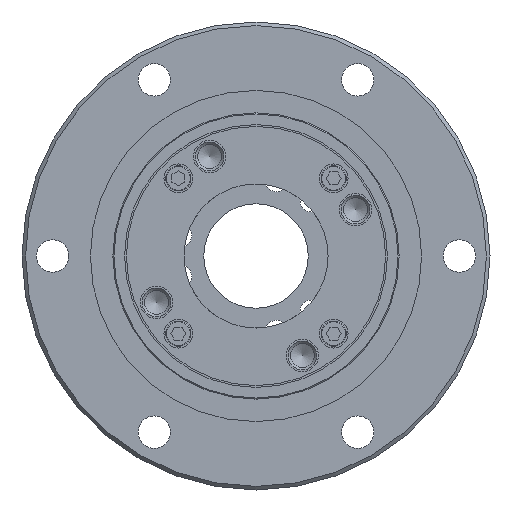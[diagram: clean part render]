
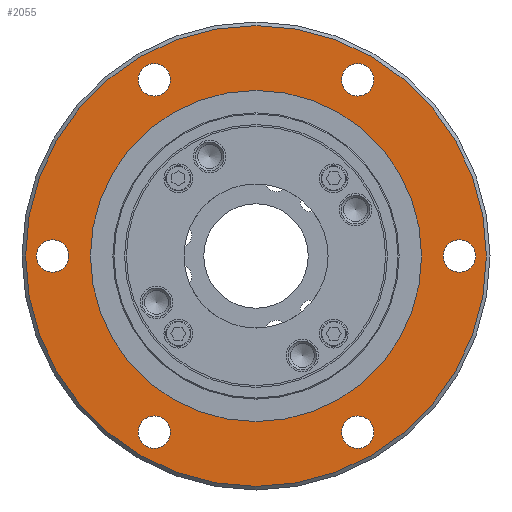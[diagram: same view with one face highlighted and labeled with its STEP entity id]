
A CAD part, left-side view. The second image highlights one B-rep face of the part: STEP entity #2055.
In plain terms, the highlighted planar face has unit normal (-1, 0, 0).
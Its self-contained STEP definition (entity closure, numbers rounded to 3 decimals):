
#89=PLANE('',#2330);
#215=CIRCLE('',#2331,64.);
#216=CIRCLE('',#2332,4.5);
#217=CIRCLE('',#2333,4.5);
#218=CIRCLE('',#2334,4.5);
#219=CIRCLE('',#2335,4.5);
#220=CIRCLE('',#2336,4.5);
#221=CIRCLE('',#2337,4.5);
#222=CIRCLE('',#2338,46.);
#473=ORIENTED_EDGE('',*,*,#863,.F.);
#474=ORIENTED_EDGE('',*,*,#864,.T.);
#475=ORIENTED_EDGE('',*,*,#865,.T.);
#476=ORIENTED_EDGE('',*,*,#866,.T.);
#477=ORIENTED_EDGE('',*,*,#867,.T.);
#478=ORIENTED_EDGE('',*,*,#868,.T.);
#479=ORIENTED_EDGE('',*,*,#869,.T.);
#480=ORIENTED_EDGE('',*,*,#870,.T.);
#863=EDGE_CURVE('',#1083,#1083,#215,.T.);
#864=EDGE_CURVE('',#1084,#1084,#216,.T.);
#865=EDGE_CURVE('',#1085,#1085,#217,.T.);
#866=EDGE_CURVE('',#1086,#1086,#218,.T.);
#867=EDGE_CURVE('',#1087,#1087,#219,.T.);
#868=EDGE_CURVE('',#1088,#1088,#220,.T.);
#869=EDGE_CURVE('',#1089,#1089,#221,.T.);
#870=EDGE_CURVE('',#1090,#1090,#222,.T.);
#1083=VERTEX_POINT('',#3526);
#1084=VERTEX_POINT('',#3528);
#1085=VERTEX_POINT('',#3530);
#1086=VERTEX_POINT('',#3532);
#1087=VERTEX_POINT('',#3534);
#1088=VERTEX_POINT('',#3536);
#1089=VERTEX_POINT('',#3538);
#1090=VERTEX_POINT('',#3540);
#1459=EDGE_LOOP('',(#473));
#1460=EDGE_LOOP('',(#474));
#1461=EDGE_LOOP('',(#475));
#1462=EDGE_LOOP('',(#476));
#1463=EDGE_LOOP('',(#477));
#1464=EDGE_LOOP('',(#478));
#1465=EDGE_LOOP('',(#479));
#1466=EDGE_LOOP('',(#480));
#1753=FACE_BOUND('',#1459,.T.);
#1754=FACE_BOUND('',#1460,.T.);
#1755=FACE_BOUND('',#1461,.T.);
#1756=FACE_BOUND('',#1462,.T.);
#1757=FACE_BOUND('',#1463,.T.);
#1758=FACE_BOUND('',#1464,.T.);
#1759=FACE_BOUND('',#1465,.T.);
#1760=FACE_BOUND('',#1466,.T.);
#2055=ADVANCED_FACE('',(#1753,#1754,#1755,#1756,#1757,#1758,#1759,#1760),
#89,.F.);
#2330=AXIS2_PLACEMENT_3D('',#3524,#2809,#2810);
#2331=AXIS2_PLACEMENT_3D('',#3525,#2811,#2812);
#2332=AXIS2_PLACEMENT_3D('',#3527,#2813,#2814);
#2333=AXIS2_PLACEMENT_3D('',#3529,#2815,#2816);
#2334=AXIS2_PLACEMENT_3D('',#3531,#2817,#2818);
#2335=AXIS2_PLACEMENT_3D('',#3533,#2819,#2820);
#2336=AXIS2_PLACEMENT_3D('',#3535,#2821,#2822);
#2337=AXIS2_PLACEMENT_3D('',#3537,#2823,#2824);
#2338=AXIS2_PLACEMENT_3D('',#3539,#2825,#2826);
#2809=DIRECTION('',(1.,0.,0.));
#2810=DIRECTION('',(0.,0.,-1.));
#2811=DIRECTION('',(1.,0.,0.));
#2812=DIRECTION('',(0.,0.,-1.));
#2813=DIRECTION('',(1.,0.,0.));
#2814=DIRECTION('',(0.,0.,-1.));
#2815=DIRECTION('',(1.,0.,0.));
#2816=DIRECTION('',(0.,0.,-1.));
#2817=DIRECTION('',(1.,0.,0.));
#2818=DIRECTION('',(0.,0.,-1.));
#2819=DIRECTION('',(1.,0.,0.));
#2820=DIRECTION('',(0.,0.,-1.));
#2821=DIRECTION('',(1.,0.,0.));
#2822=DIRECTION('',(0.,0.,-1.));
#2823=DIRECTION('',(1.,0.,0.));
#2824=DIRECTION('',(0.,0.,-1.));
#2825=DIRECTION('',(1.,0.,0.));
#2826=DIRECTION('',(0.,0.,-1.));
#3524=CARTESIAN_POINT('',(16.5,39.75,0.));
#3525=CARTESIAN_POINT('',(16.5,0.,0.));
#3526=CARTESIAN_POINT('',(16.5,0.,-64.));
#3527=CARTESIAN_POINT('',(16.5,56.5,0.));
#3528=CARTESIAN_POINT('',(16.5,56.5,-4.5));
#3529=CARTESIAN_POINT('',(16.5,28.25,48.93));
#3530=CARTESIAN_POINT('',(16.5,28.25,44.43));
#3531=CARTESIAN_POINT('',(16.5,-28.25,48.93));
#3532=CARTESIAN_POINT('',(16.5,-28.25,44.43));
#3533=CARTESIAN_POINT('',(16.5,-56.5,0.));
#3534=CARTESIAN_POINT('',(16.5,-56.5,-4.5));
#3535=CARTESIAN_POINT('',(16.5,-28.25,-48.93));
#3536=CARTESIAN_POINT('',(16.5,-28.25,-53.43));
#3537=CARTESIAN_POINT('',(16.5,28.25,-48.93));
#3538=CARTESIAN_POINT('',(16.5,28.25,-53.43));
#3539=CARTESIAN_POINT('',(16.5,0.,0.));
#3540=CARTESIAN_POINT('',(16.5,0.,-46.));
